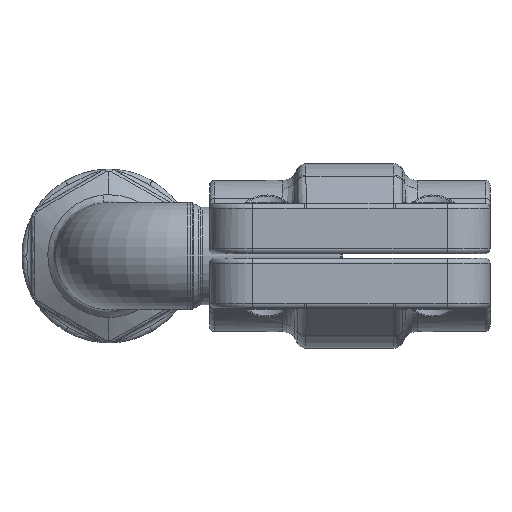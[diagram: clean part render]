
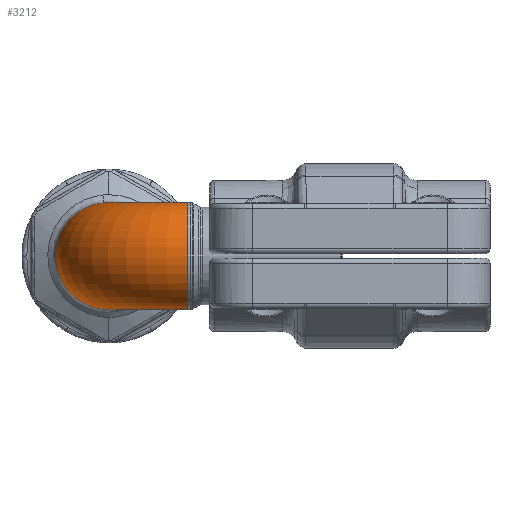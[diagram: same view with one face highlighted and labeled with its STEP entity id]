
A CAD part, left-side view. The second image highlights one B-rep face of the part: STEP entity #3212.
In plain terms, the highlighted toroidal (fillet/blend) face has major radius 16.644 mm and minor radius 11.265 mm.
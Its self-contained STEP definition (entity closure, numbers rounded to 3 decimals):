
#608=CARTESIAN_POINT('',(14.824,1.004,11.211));
#609=CARTESIAN_POINT('',(14.856,2.499,11.066));
#610=CARTESIAN_POINT('',(14.888,4.66,10.412));
#611=CARTESIAN_POINT('',(14.917,7.148,8.748));
#612=CARTESIAN_POINT('',(14.937,9.253,6.643));
#613=CARTESIAN_POINT('',(14.951,11.029,3.302));
#614=CARTESIAN_POINT('',(14.954,11.376,-0.465));
#615=CARTESIAN_POINT('',(14.949,10.77,-3.378));
#616=CARTESIAN_POINT('',(14.942,9.892,-5.443));
#617=CARTESIAN_POINT('',(14.931,8.63,-7.286));
#618=CARTESIAN_POINT('',(14.916,7.023,-8.852));
#619=CARTESIAN_POINT('',(14.894,5.137,-10.072));
#620=CARTESIAN_POINT('',(14.859,2.766,-11.011));
#621=CARTESIAN_POINT('',(14.825,0.96,-11.264));
#622=CARTESIAN_POINT('',(14.798,-0.102,
-11.265));
#627=CARTESIAN_POINT('',(14.8,-0.021,11.265));
#628=CARTESIAN_POINT('',(14.804,0.15,11.263));
#629=CARTESIAN_POINT('',(14.811,0.493,11.253));
#630=CARTESIAN_POINT('',(14.82,0.834,11.228));
#631=CARTESIAN_POINT('',(14.824,1.004,11.211));
#636=CARTESIAN_POINT('',(14.798,-0.103,11.265));
#637=CARTESIAN_POINT('',(14.799,-0.076,11.265));
#638=CARTESIAN_POINT('',(14.799,-0.048,11.265));
#639=CARTESIAN_POINT('',(14.8,-0.021,11.265));
#644=CARTESIAN_POINT('',(0.,-16.644,0.));
#645=DIRECTION('',(0.,1.,0.));
#646=DIRECTION('',(0.,0.,-1.));
#647=AXIS2_PLACEMENT_3D('',#644,#645,#646);
#697=CARTESIAN_POINT('',(16.644,-16.644,-11.265));
#698=DIRECTION('',(0.,0.,-1.));
#699=DIRECTION('',(-1.,0.,0.));
#700=AXIS2_PLACEMENT_3D('',#697,#698,#699);
#713=CARTESIAN_POINT('',(16.644,-16.644,11.265));
#714=DIRECTION('',(0.,0.,-1.));
#715=DIRECTION('',(-1.,0.,0.));
#716=AXIS2_PLACEMENT_3D('',#713,#714,#715);
#759=CARTESIAN_POINT('',(14.824,1.004,11.211));
#2463=CARTESIAN_POINT('',(0.,-16.644,11.265));
#2465=VERTEX_POINT('',#2463);
#2467=CARTESIAN_POINT('',(0.,-16.644,-11.265));
#2469=VERTEX_POINT('',#2467);
#2470=CARTESIAN_POINT('',(14.798,-0.103,
11.265));
#2471=VERTEX_POINT('',#2470);
#2472=CARTESIAN_POINT('',(14.798,-0.103,
-11.265));
#2473=VERTEX_POINT('',#2472);
#2509=VERTEX_POINT('',#759);
#2510=VERTEX_POINT('',#639);
#3194=CARTESIAN_POINT('',(16.644,-16.644,0.));
#3195=DIRECTION('',(0.,0.,1.));
#3196=DIRECTION('',(-1.,0.,0.));
#3197=AXIS2_PLACEMENT_3D('',#3194,#3195,#3196);
#3198=TOROIDAL_SURFACE('',#3197,16.644,11.265);
#3200=ORIENTED_EDGE('',*,*,#3199,.F.);
#3202=ORIENTED_EDGE('',*,*,#3201,.F.);
#3204=ORIENTED_EDGE('',*,*,#3203,.F.);
#3206=ORIENTED_EDGE('',*,*,#3205,.F.);
#3207=ORIENTED_EDGE('',*,*,#3176,.F.);
#3209=ORIENTED_EDGE('',*,*,#3208,.T.);
#3210=EDGE_LOOP('',(#3200,#3202,#3204,#3206,#3207,#3209));
#3211=FACE_OUTER_BOUND('',#3210,.F.);
#623=B_SPLINE_CURVE_WITH_KNOTS('',3,(#608,#609,#610,#611,#612,#613,#614,#615,
#616,#617,#618,#619,#620,#621,#622),.UNSPECIFIED.,.F.,.F.,(4,1,1,1,1,1,1,1,1,1,
1,1,4),(0.,0.13,0.194,0.259,
0.389,0.519,0.583,0.648,
0.713,0.778,0.843,0.908,1.),
.UNSPECIFIED.);
#632=B_SPLINE_CURVE_WITH_KNOTS('',3,(#627,#628,#629,#630,#631),.UNSPECIFIED.,
.F.,.F.,(4,1,4),(0.,0.5,1.),.UNSPECIFIED.);
#640=B_SPLINE_CURVE_WITH_KNOTS('',3,(#636,#637,#638,#639),.UNSPECIFIED.,.F.,.F.,
(4,4),(0.,1.),.UNSPECIFIED.);
#648=CIRCLE('',#647,11.265);
#701=CIRCLE('',#700,16.643);
#717=CIRCLE('',#716,16.643);
#3176=EDGE_CURVE('',#2469,#2465,#648,.T.);
#3199=EDGE_CURVE('',#2509,#2473,#623,.T.);
#3201=EDGE_CURVE('',#2510,#2509,#632,.T.);
#3203=EDGE_CURVE('',#2471,#2510,#640,.T.);
#3205=EDGE_CURVE('',#2465,#2471,#717,.T.);
#3208=EDGE_CURVE('',#2469,#2473,#701,.T.);
#3212=ADVANCED_FACE('',(#3211),#3198,.T.);
